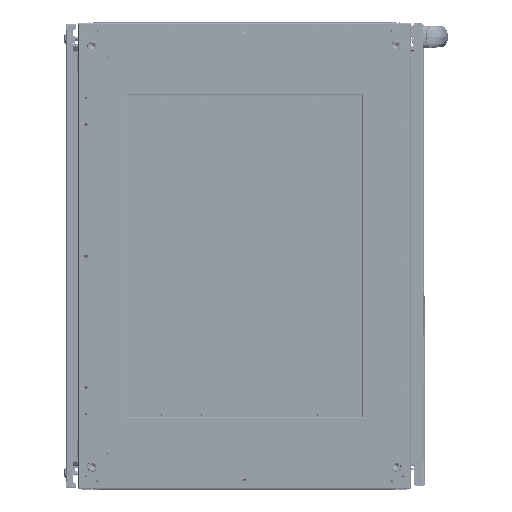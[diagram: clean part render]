
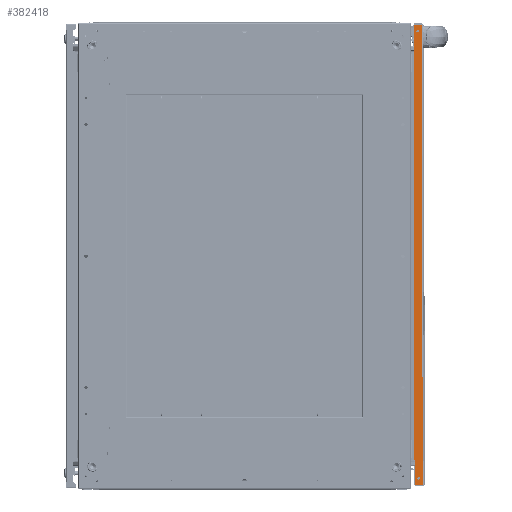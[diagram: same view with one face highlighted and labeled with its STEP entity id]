
A CAD part, front view. The second image highlights one B-rep face of the part: STEP entity #382418.
In plain terms, the highlighted planar face has unit normal (0, -1, 0) as drawn and (-1, 0, 0) by its records, which use the part's own axes.
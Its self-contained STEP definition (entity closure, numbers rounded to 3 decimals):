
#9416 = CARTESIAN_POINT ( 'NONE',  ( -2.01, 9., -13.3 ) ) ;
#18718 = VECTOR ( 'NONE', #214203, 1000. ) ;
#26721 = LINE ( 'NONE', #509176, #153533 ) ;
#28641 = DIRECTION ( 'NONE',  ( 0., 1., 0. ) ) ;
#32938 = DIRECTION ( 'NONE',  ( 1., 0., 0. ) ) ;
#33135 = VERTEX_POINT ( 'NONE', #9416 ) ;
#42554 = DIRECTION ( 'NONE',  ( 0., 0., -1. ) ) ;
#48740 = CARTESIAN_POINT ( 'NONE',  ( -2.01, 2.01, -788. ) ) ;
#53190 = LINE ( 'NONE', #434834, #454281 ) ;
#62153 = VERTEX_POINT ( 'NONE', #425530 ) ;
#83259 = ORIENTED_EDGE ( 'NONE', *, *, #140904, .T. ) ;
#84263 = EDGE_LOOP ( 'NONE', ( #120823, #330573, #426767, #116753 ) ) ;
#90088 = EDGE_LOOP ( 'NONE', ( #566755, #83259 ) ) ;
#105440 = VECTOR ( 'NONE', #151104, 1000. ) ;
#116753 = ORIENTED_EDGE ( 'NONE', *, *, #136817, .T. ) ;
#120823 = ORIENTED_EDGE ( 'NONE', *, *, #581665, .F. ) ;
#133106 = DIRECTION ( 'NONE',  ( 0., 0., -1. ) ) ;
#136817 = EDGE_CURVE ( 'NONE', #155299, #572781, #365465, .T. ) ;
#138209 = CARTESIAN_POINT ( 'NONE',  ( -2.01, 9., -774.7 ) ) ;
#140904 = EDGE_CURVE ( 'NONE', #182653, #62153, #354526, .T. ) ;
#146014 = AXIS2_PLACEMENT_3D ( 'NONE', #275099, #183521, #133106 ) ;
#151104 = DIRECTION ( 'NONE',  ( 0., 0., -1. ) ) ;
#153533 = VECTOR ( 'NONE', #411465, 1000. ) ;
#153535 = CARTESIAN_POINT ( 'NONE',  ( -2.01, 16., -788. ) ) ;
#155299 = VERTEX_POINT ( 'NONE', #153535 ) ;
#157357 = LINE ( 'NONE', #441232, #105440 ) ;
#159134 = EDGE_CURVE ( 'NONE', #33135, #477723, #492804, .T. ) ;
#163418 = AXIS2_PLACEMENT_3D ( 'NONE', #555288, #224163, #28641 ) ;
#179910 = FACE_BOUND ( 'NONE', #90088, .T. ) ;
#182653 = VERTEX_POINT ( 'NONE', #138209 ) ;
#183521 = DIRECTION ( 'NONE',  ( 1., 0., 0. ) ) ;
#204791 = CARTESIAN_POINT ( 'NONE',  ( -2.01, 9., -11. ) ) ;
#207802 = EDGE_CURVE ( 'NONE', #568944, #155299, #26721, .T. ) ;
#213599 = CARTESIAN_POINT ( 'NONE',  ( -2.01, 2.01, 0. ) ) ;
#214203 = DIRECTION ( 'NONE',  ( 0., -1., 0. ) ) ;
#224163 = DIRECTION ( 'NONE',  ( 1., 0., 0. ) ) ;
#235567 = EDGE_LOOP ( 'NONE', ( #327001, #479623 ) ) ;
#242757 = DIRECTION ( 'NONE',  ( 0., 0., -1. ) ) ;
#271494 = FACE_BOUND ( 'NONE', #235567, .T. ) ;
#275099 = CARTESIAN_POINT ( 'NONE',  ( -2.01, 9., -777. ) ) ;
#294900 = AXIS2_PLACEMENT_3D ( 'NONE', #204791, #438218, #242757 ) ;
#327001 = ORIENTED_EDGE ( 'NONE', *, *, #159134, .T. ) ;
#330573 = ORIENTED_EDGE ( 'NONE', *, *, #343531, .T. ) ;
#334379 = CARTESIAN_POINT ( 'NONE',  ( -2.01, 16., 0. ) ) ;
#343531 = EDGE_CURVE ( 'NONE', #585365, #568944, #53190, .T. ) ;
#344619 = AXIS2_PLACEMENT_3D ( 'NONE', #616230, #32938, #512273 ) ;
#354526 = CIRCLE ( 'NONE', #344619, 2.3 ) ;
#365465 = LINE ( 'NONE', #463136, #18718 ) ;
#379999 = CARTESIAN_POINT ( 'NONE',  ( -2.01, 9., -11. ) ) ;
#382418 = ADVANCED_FACE ( 'NONE', ( #179910, #271494, #608804 ), #463757, .F. ) ;
#383760 = EDGE_CURVE ( 'NONE', #477723, #33135, #405610, .T. ) ;
#405610 = CIRCLE ( 'NONE', #294900, 2.3 ) ;
#411465 = DIRECTION ( 'NONE',  ( 0., 0., -1. ) ) ;
#425530 = CARTESIAN_POINT ( 'NONE',  ( -2.01, 9., -779.3 ) ) ;
#426767 = ORIENTED_EDGE ( 'NONE', *, *, #207802, .T. ) ;
#434834 = CARTESIAN_POINT ( 'NONE',  ( -2.01, 16., 0. ) ) ;
#438218 = DIRECTION ( 'NONE',  ( 1., 0., 0. ) ) ;
#441232 = CARTESIAN_POINT ( 'NONE',  ( -2.01, 2.01, -788. ) ) ;
#454281 = VECTOR ( 'NONE', #494511, 1000. ) ;
#463136 = CARTESIAN_POINT ( 'NONE',  ( -2.01, 16., -788. ) ) ;
#463757 = PLANE ( 'NONE',  #163418 ) ;
#472544 = AXIS2_PLACEMENT_3D ( 'NONE', #379999, #569210, #42554 ) ;
#477723 = VERTEX_POINT ( 'NONE', #519515 ) ;
#479623 = ORIENTED_EDGE ( 'NONE', *, *, #383760, .T. ) ;
#492804 = CIRCLE ( 'NONE', #472544, 2.3 ) ;
#494511 = DIRECTION ( 'NONE',  ( 0., 1., 0. ) ) ;
#509176 = CARTESIAN_POINT ( 'NONE',  ( -2.01, 16., -788. ) ) ;
#512273 = DIRECTION ( 'NONE',  ( 0., 0., -1. ) ) ;
#519515 = CARTESIAN_POINT ( 'NONE',  ( -2.01, 9., -8.7 ) ) ;
#528655 = EDGE_CURVE ( 'NONE', #62153, #182653, #619176, .T. ) ;
#555288 = CARTESIAN_POINT ( 'NONE',  ( -2.01, 16., -788. ) ) ;
#566755 = ORIENTED_EDGE ( 'NONE', *, *, #528655, .T. ) ;
#568944 = VERTEX_POINT ( 'NONE', #334379 ) ;
#569210 = DIRECTION ( 'NONE',  ( 1., 0., 0. ) ) ;
#572781 = VERTEX_POINT ( 'NONE', #48740 ) ;
#581665 = EDGE_CURVE ( 'NONE', #585365, #572781, #157357, .T. ) ;
#585365 = VERTEX_POINT ( 'NONE', #213599 ) ;
#608804 = FACE_OUTER_BOUND ( 'NONE', #84263, .T. ) ;
#616230 = CARTESIAN_POINT ( 'NONE',  ( -2.01, 9., -777. ) ) ;
#619176 = CIRCLE ( 'NONE', #146014, 2.3 ) ;
